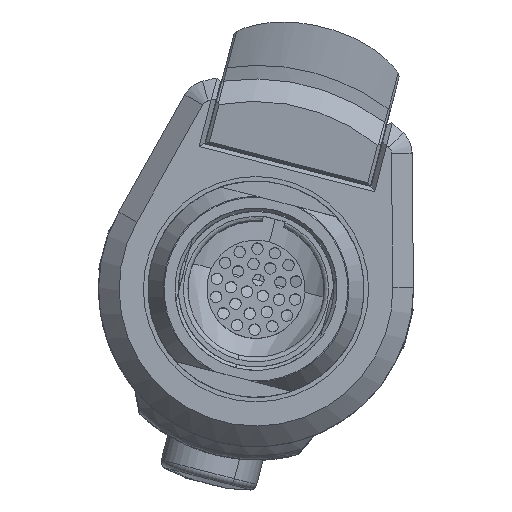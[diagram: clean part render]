
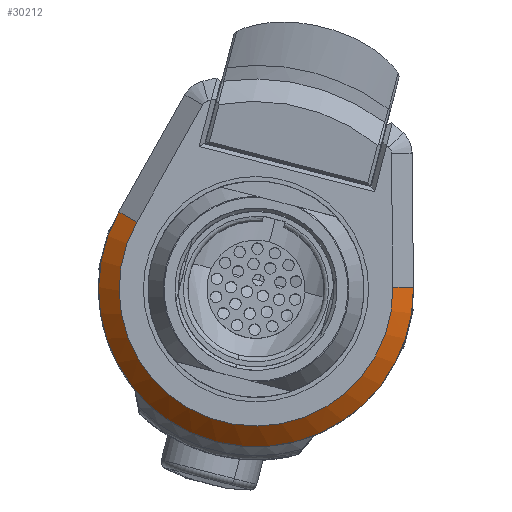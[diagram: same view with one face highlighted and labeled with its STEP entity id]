
A CAD part, top view. The second image highlights one B-rep face of the part: STEP entity #30212.
In plain terms, the highlighted conical face has half-angle 45 degrees and reference radius 17.462 mm.
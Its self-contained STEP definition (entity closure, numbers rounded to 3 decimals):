
#1346 = EDGE_CURVE ( 'NONE', #7739, #9639, #11605, .T. ) ;
#1388 = DIRECTION ( 'NONE',  ( 0.249, 0.969, 0. ) ) ;
#1879 = DIRECTION ( 'NONE',  ( 0.249, 0.969, 0. ) ) ;
#3608 = ORIENTED_EDGE ( 'NONE', *, *, #39615, .F. ) ;
#4924 = CIRCLE ( 'NONE', #27380, 17.463 ) ;
#5195 = AXIS2_PLACEMENT_3D ( 'NONE', #38465, #21542, #14749 ) ;
#6364 = CARTESIAN_POINT ( 'NONE',  ( 6.933, -9.423, 107.353 ) ) ;
#7739 = VERTEX_POINT ( 'NONE', #15692 ) ;
#9195 = CIRCLE ( 'NONE', #33773, 17.463 ) ;
#9639 = VERTEX_POINT ( 'NONE', #37915 ) ;
#9981 = VERTEX_POINT ( 'NONE', #26918 ) ;
#10575 = EDGE_CURVE ( 'NONE', #9639, #9981, #23776, .T. ) ;
#10720 = DIRECTION ( 'NONE',  ( 0.249, 0.969, 0. ) ) ;
#11605 = LINE ( 'NONE', #19037, #16619 ) ;
#12445 = DIRECTION ( 'NONE',  ( 0.616, -0.347, 0.707 ) ) ;
#12721 = CARTESIAN_POINT ( 'NONE',  ( 6.171, -9.432, 108.115 ) ) ;
#14749 = DIRECTION ( 'NONE',  ( 0.249, 0.969, 0. ) ) ;
#14817 = EDGE_LOOP ( 'NONE', ( #26848, #39982, #36753, #15908, #3608 ) ) ;
#15173 = EDGE_CURVE ( 'NONE', #25665, #7739, #4924, .T. ) ;
#15692 = CARTESIAN_POINT ( 'NONE',  ( -24.977, -1.083, 106.591 ) ) ;
#15908 = ORIENTED_EDGE ( 'NONE', *, *, #15173, .F. ) ;
#16208 = VERTEX_POINT ( 'NONE', #23001 ) ;
#16619 = VECTOR ( 'NONE', #12445, 1000. ) ;
#17130 = CONICAL_SURFACE ( 'NONE', #5195, 17.463, 0.785 ) ;
#18483 = FACE_OUTER_BOUND ( 'NONE', #14817, .T. ) ;
#19037 = CARTESIAN_POINT ( 'NONE',  ( -24.977, -1.083, 106.591 ) ) ;
#21542 = DIRECTION ( 'NONE',  ( 0., 0., -1. ) ) ;
#22073 = DIRECTION ( 'NONE',  ( 0., 0., -1. ) ) ;
#22514 = CARTESIAN_POINT ( 'NONE',  ( -9.766, -9.66, 106.591 ) ) ;
#23001 = CARTESIAN_POINT ( 'NONE',  ( 7.695, -9.413, 106.591 ) ) ;
#23776 = CIRCLE ( 'NONE', #33642, 15.176 ) ;
#23872 = DIRECTION ( 'NONE',  ( 0., 0., 1. ) ) ;
#25213 = CARTESIAN_POINT ( 'NONE',  ( -14.114, -26.572, 106.591 ) ) ;
#25217 = B_SPLINE_CURVE_WITH_KNOTS ( 'NONE', 3,
 ( #39103, #6364, #12721, #39970 ),
 .UNSPECIFIED., .F., .F.,
 ( 4, 4 ),
 ( 0., 0.003 ),
 .UNSPECIFIED. ) ;
#25665 = VERTEX_POINT ( 'NONE', #25213 ) ;
#26848 = ORIENTED_EDGE ( 'NONE', *, *, #28041, .T. ) ;
#26918 = CARTESIAN_POINT ( 'NONE',  ( 5.409, -9.441, 108.877 ) ) ;
#27380 = AXIS2_PLACEMENT_3D ( 'NONE', #38510, #34777, #1388 ) ;
#28041 = EDGE_CURVE ( 'NONE', #16208, #9981, #25217, .T. ) ;
#30212 = ADVANCED_FACE ( 'NONE', ( #18483 ), #17130, .T. ) ;
#33642 = AXIS2_PLACEMENT_3D ( 'NONE', #38311, #23872, #10720 ) ;
#33773 = AXIS2_PLACEMENT_3D ( 'NONE', #22514, #22073, #1879 ) ;
#34777 = DIRECTION ( 'NONE',  ( 0., 0., -1. ) ) ;
#36753 = ORIENTED_EDGE ( 'NONE', *, *, #1346, .F. ) ;
#37915 = CARTESIAN_POINT ( 'NONE',  ( -22.986, -2.206, 108.877 ) ) ;
#38311 = CARTESIAN_POINT ( 'NONE',  ( -9.766, -9.66, 108.877 ) ) ;
#38465 = CARTESIAN_POINT ( 'NONE',  ( -9.766, -9.66, 106.591 ) ) ;
#38510 = CARTESIAN_POINT ( 'NONE',  ( -9.766, -9.66, 106.591 ) ) ;
#39103 = CARTESIAN_POINT ( 'NONE',  ( 7.695, -9.413, 106.591 ) ) ;
#39615 = EDGE_CURVE ( 'NONE', #16208, #25665, #9195, .T. ) ;
#39970 = CARTESIAN_POINT ( 'NONE',  ( 5.409, -9.441, 108.877 ) ) ;
#39982 = ORIENTED_EDGE ( 'NONE', *, *, #10575, .F. ) ;
